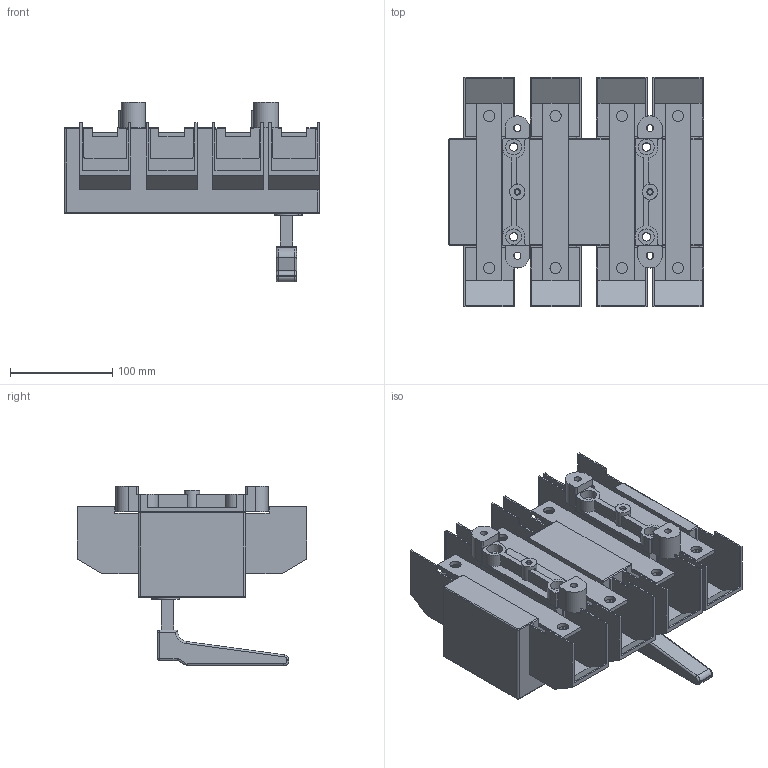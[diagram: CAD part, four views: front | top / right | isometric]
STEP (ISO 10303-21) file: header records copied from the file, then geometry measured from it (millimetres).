
FILE_DESCRIPTION(/* description */ (''),/* implementation_level */ '2;1');
FILE_NAME(/* name */ 'RA400 P3 N-R.stp',/* time_stamp */ '2021-08-18T13:30:32+02:00',/* author */ (''),/* organization */ (''),/* preprocessor_version */ 'ST-DEVELOPER v18.1',/* originating_system */ 'SIEMENS PLM Software NX 1965',/* authorisation */ '');
FILE_SCHEMA (('AUTOMOTIVE_DESIGN { 1 0 10303 214 3 1 1 1 }'));
Length unit declared in the file: millimetre
Products named in the file (1): RA400_P3_N-R
Bounding box: 250 x 225 x 176 mm (x, y, z)
Volume: 2438117.7 mm3; surface area: 344845.2 mm2
Topology: 1 solids, 1 shells, 464 faces, 1261 edges, 817 vertices
Faces by surface type: plane 315, cylinder 127, bspline 8, torus 8, sphere 6
Full cylindrical faces by diameter (mm): 4.8 x2, 6.2 x2, 7 x4, 8.2 x4, 11 x8, 14 x4, 15 x2, 15.5 x4
Entity records: 14439 total; most frequent: CARTESIAN_POINT 2649, ORIENTED_EDGE 2430, DIRECTION 2399, EDGE_CURVE 1215, LINE 937, VECTOR 937, VERTEX_POINT 804, AXIS2_PLACEMENT_3D 731
